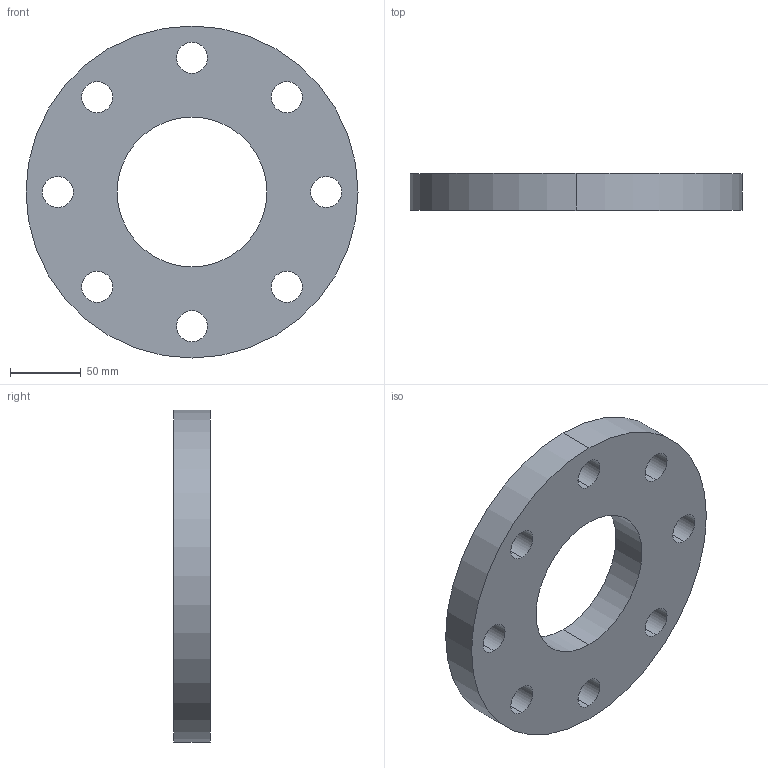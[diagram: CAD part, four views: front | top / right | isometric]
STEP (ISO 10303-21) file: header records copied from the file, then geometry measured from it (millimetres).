
FILE_DESCRIPTION (( 'STEP AP203' ), '1' );
FILE_NAME ('3D_R182-PN40_DN104_17623260.STEP', '2024-07-01T15:19:47', ( '' ), ( '' ), 'SwSTEP 2.0', 'SolidWorks 2024', '' );
FILE_SCHEMA (( 'CONFIG_CONTROL_DESIGN' ));
Length unit declared in the file: millimetre
Products named in the file (1): 3D_R182-PN40_DN104_17623260
Bounding box: 235 x 26 x 235 mm (x, y, z)
Volume: 819203.3 mm3; surface area: 105244.9 mm2
Topology: 1 solids, 1 shells, 22 faces, 60 edges, 40 vertices
Faces by surface type: cylinder 20, plane 2
Entity records: 837 total; most frequent: DIRECTION 146, CARTESIAN_POINT 123, ORIENTED_EDGE 120, AXIS2_PLACEMENT_3D 63, EDGE_CURVE 60, CIRCLE 40, EDGE_LOOP 40, VERTEX_POINT 40
